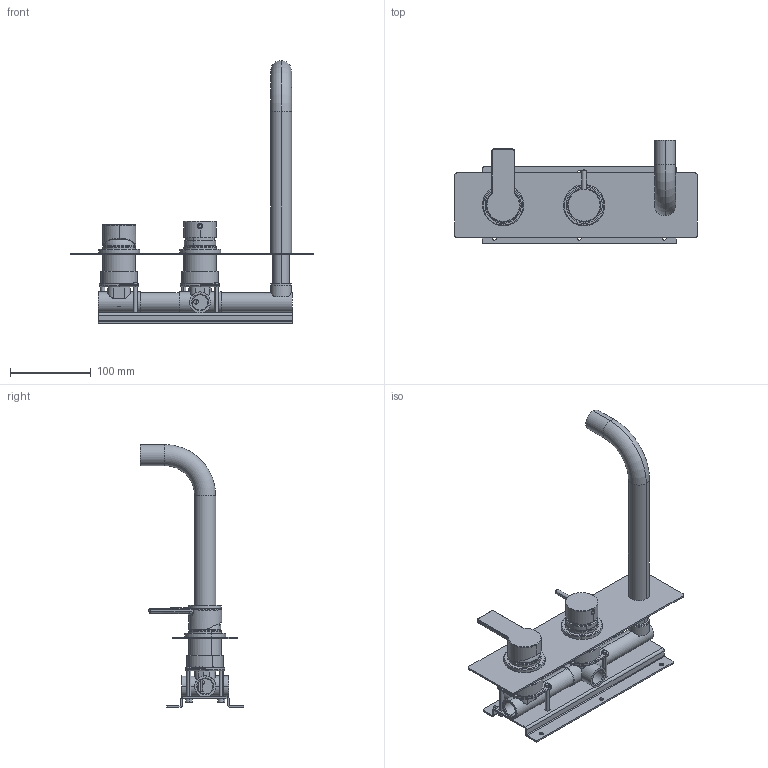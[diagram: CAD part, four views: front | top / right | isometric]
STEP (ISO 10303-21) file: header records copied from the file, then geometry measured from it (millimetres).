
FILE_DESCRIPTION (( 'STEP AP203' ), '1' );
FILE_NAME ('JGN82.STEP', '2024-01-26T15:32:43', ( '' ), ( '' ), 'SwSTEP 2.0', 'SolidWorks 2023', '' );
FILE_SCHEMA (( 'CONFIG_CONTROL_DESIGN' ));
Length unit declared in the file: millimetre
Products named in the file (32): C24.1965.00.0; C24.1992.00.0; C12.00.0017; 1174; C10.00.0011; ADATTATORE MEZZO; C24.2119.00.0; C12.00.0008; C23.1878.01; C23.2074.00.1; C25.2662.00; C47.00.0015; 405-40CPA GEDA; C39.00.0033; TUBO DI GIUNZIONE VASCA E DOCCIA; 1000; C24.1966.00.0; CAPP_0; C11.14.0007; AS757_00; C47.00.0023.01; C25.1964.00.0; C11.14.0009; 1174G; EROGATORE VASCA E DOCCIA; C10.00.0015; C24.1993.00.0; IST80; JGN82; VITETC5x40; C25.1173.00.0; C12.00.0035
Assembly tree (40 placements, depth 4):
  JGN82
    AS757_00
      C24.1992.00.0
      C25.1173.00.0
      C23.1878.01
      C11.14.0009
      C11.14.0007
      C47.00.0023.01
    C25.2662.00
    C12.00.0035  x2
    C24.2119.00.0  x2
    IST80
      405-40CPA GEDA
        1174G
        EROGATORE VASCA E DOCCIA
        TUBO DI GIUNZIONE VASCA E DOCCIA
        1174
        ADATTATORE MEZZO
      C24.1966.00.0
      C25.1964.00.0
      C24.1965.00.0  x2
      C12.00.0008
      C12.00.0017  x2
      1000  x2
      C47.00.0015  x2
      C10.00.0015
      C10.00.0011
      VITETC5x40  x4
      C24.1993.00.0
      CAPP_0
    C23.2074.00.1
    C39.00.0033
Bounding box: 300 x 127.5 x 324.75 mm (x, y, z)
Volume: 475873 mm3; surface area: 305847.3 mm2
Topology: 40 solids, 41 shells, 1469 faces, 3436 edges, 2140 vertices
Faces by surface type: plane 596, cylinder 565, cone 177, torus 121, bspline 10
Entity records: 38473 total; most frequent: CARTESIAN_POINT 7756, DIRECTION 6107, ORIENTED_EDGE 5322, EDGE_CURVE 2661, AXIS2_PLACEMENT_3D 2417, VERTEX_POINT 1660, EDGE_LOOP 1331, VECTOR 1273
